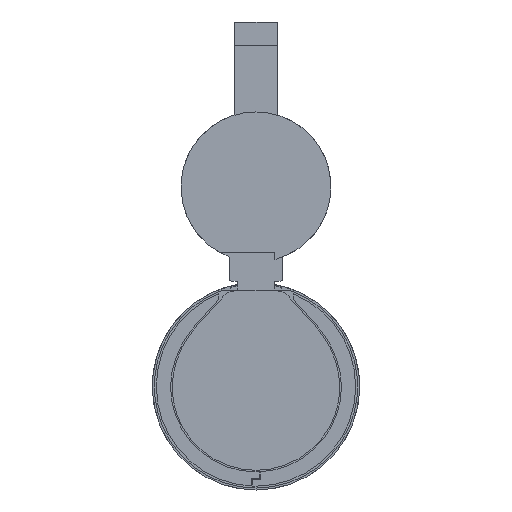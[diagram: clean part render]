
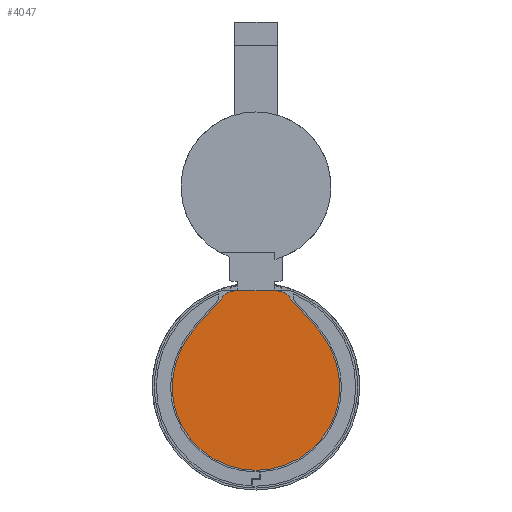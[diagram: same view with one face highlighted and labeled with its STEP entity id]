
A CAD part, front view. The second image highlights one B-rep face of the part: STEP entity #4047.
In plain terms, the highlighted planar face has unit normal (0, -1, 0).
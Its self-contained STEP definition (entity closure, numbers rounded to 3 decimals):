
#39 = CARTESIAN_POINT ( 'NONE',  ( -15.091, 0., 15.491 ) ) ;
#110 = AXIS2_PLACEMENT_3D ( 'NONE', #4804, #1171, #5377 ) ;
#176 = AXIS2_PLACEMENT_3D ( 'NONE', #7042, #3511, #7630 ) ;
#438 = EDGE_CURVE ( 'NONE', #7442, #7611, #3367, .T. ) ;
#485 = EDGE_CURVE ( 'NONE', #6822, #6801, #1538, .T. ) ;
#532 = DIRECTION ( 'NONE',  ( 0., 1., 0. ) ) ;
#585 = DIRECTION ( 'NONE',  ( 0., 0., 1. ) ) ;
#634 = VERTEX_POINT ( 'NONE', #3050 ) ;
#747 = ORIENTED_EDGE ( 'NONE', *, *, #3046, .F. ) ;
#801 = ORIENTED_EDGE ( 'NONE', *, *, #2486, .F. ) ;
#865 = VERTEX_POINT ( 'NONE', #7113 ) ;
#905 = ORIENTED_EDGE ( 'NONE', *, *, #2818, .F. ) ;
#1166 = CARTESIAN_POINT ( 'NONE',  ( -5.394, 0., 24.4 ) ) ;
#1171 = DIRECTION ( 'NONE',  ( 0., 1., 0. ) ) ;
#1174 = PLANE ( 'NONE',  #4568 ) ;
#1276 = VECTOR ( 'NONE', #6666, 1000. ) ;
#1375 = FACE_OUTER_BOUND ( 'NONE', #6637, .T. ) ;
#1468 = LINE ( 'NONE', #6475, #4148 ) ;
#1504 = CIRCLE ( 'NONE', #1680, 21.47 ) ;
#1538 = CIRCLE ( 'NONE', #5756, 21.47 ) ;
#1557 = ORIENTED_EDGE ( 'NONE', *, *, #2312, .F. ) ;
#1680 = AXIS2_PLACEMENT_3D ( 'NONE', #3580, #7699, #4202 ) ;
#1685 = DIRECTION ( 'NONE',  ( -0.019, 0., 1. ) ) ;
#1728 = VERTEX_POINT ( 'NONE', #4897 ) ;
#1772 = AXIS2_PLACEMENT_3D ( 'NONE', #6721, #3184, #7311 ) ;
#1923 = CARTESIAN_POINT ( 'NONE',  ( 5.394, 0., 20.6 ) ) ;
#2258 = EDGE_CURVE ( 'NONE', #7377, #6801, #4649, .T. ) ;
#2312 = EDGE_CURVE ( 'NONE', #7377, #7611, #6838, .T. ) ;
#2481 = LINE ( 'NONE', #1166, #4106 ) ;
#2486 = EDGE_CURVE ( 'NONE', #1728, #6822, #1504, .T. ) ;
#2523 = DIRECTION ( 'NONE',  ( 0., 0., 1. ) ) ;
#2585 = CARTESIAN_POINT ( 'NONE',  ( 21.47, 0., 0.008 ) ) ;
#2818 = EDGE_CURVE ( 'NONE', #634, #865, #2481, .T. ) ;
#2856 = VECTOR ( 'NONE', #6078, 1000. ) ;
#3046 = EDGE_CURVE ( 'NONE', #3150, #7343, #7136, .T. ) ;
#3050 = CARTESIAN_POINT ( 'NONE',  ( -5.394, 0., 24.4 ) ) ;
#3150 = VERTEX_POINT ( 'NONE', #7122 ) ;
#3159 = EDGE_CURVE ( 'NONE', #7442, #634, #3830, .T. ) ;
#3184 = DIRECTION ( 'NONE',  ( 0., 1., 0. ) ) ;
#3196 = VECTOR ( 'NONE', #5885, 1000. ) ;
#3256 = EDGE_CURVE ( 'NONE', #865, #3711, #7480, .T. ) ;
#3367 = LINE ( 'NONE', #5307, #3196 ) ;
#3511 = DIRECTION ( 'NONE',  ( 0., 1., 0. ) ) ;
#3564 = EDGE_CURVE ( 'NONE', #1728, #7343, #1468, .T. ) ;
#3580 = CARTESIAN_POINT ( 'NONE',  ( 0., 0., 0. ) ) ;
#3711 = VERTEX_POINT ( 'NONE', #4235 ) ;
#3830 = CIRCLE ( 'NONE', #110, 3.8 ) ;
#3836 = AXIS2_PLACEMENT_3D ( 'NONE', #1923, #6090, #2523 ) ;
#4047 = ADVANCED_FACE ( 'NONE', ( #1375 ), #1174, .F. ) ;
#4106 = VECTOR ( 'NONE', #4798, 1000. ) ;
#4148 = VECTOR ( 'NONE', #1685, 1000. ) ;
#4169 = EDGE_CURVE ( 'NONE', #3711, #3150, #6055, .T. ) ;
#4197 = CARTESIAN_POINT ( 'NONE',  ( 0., 0., 0. ) ) ;
#4202 = DIRECTION ( 'NONE',  ( 0., 0., 1. ) ) ;
#4235 = CARTESIAN_POINT ( 'NONE',  ( 8.221, 0., 23.139 ) ) ;
#4248 = DIRECTION ( 'NONE',  ( 0., 1., 0. ) ) ;
#4271 = CARTESIAN_POINT ( 'NONE',  ( -21.47, 0., 0. ) ) ;
#4331 = CARTESIAN_POINT ( 'NONE',  ( -21.47, 0., 0.008 ) ) ;
#4451 = ORIENTED_EDGE ( 'NONE', *, *, #438, .T. ) ;
#4568 = AXIS2_PLACEMENT_3D ( 'NONE', #7750, #4248, #585 ) ;
#4649 = LINE ( 'NONE', #4331, #2856 ) ;
#4784 = DIRECTION ( 'NONE',  ( 0., 0., 1. ) ) ;
#4798 = DIRECTION ( 'NONE',  ( 1., 0., 0. ) ) ;
#4804 = CARTESIAN_POINT ( 'NONE',  ( -5.394, 0., 20.6 ) ) ;
#4897 = CARTESIAN_POINT ( 'NONE',  ( 21.47, 0., 0. ) ) ;
#5069 = CARTESIAN_POINT ( 'NONE',  ( -21.47, 0., 0.008 ) ) ;
#5158 = ORIENTED_EDGE ( 'NONE', *, *, #3256, .F. ) ;
#5307 = CARTESIAN_POINT ( 'NONE',  ( -8.221, 0., 23.139 ) ) ;
#5377 = DIRECTION ( 'NONE',  ( 0., 0., 1. ) ) ;
#5477 = CARTESIAN_POINT ( 'NONE',  ( 8.221, 0., 23.139 ) ) ;
#5740 = ORIENTED_EDGE ( 'NONE', *, *, #4169, .F. ) ;
#5756 = AXIS2_PLACEMENT_3D ( 'NONE', #4197, #532, #4784 ) ;
#5809 = ORIENTED_EDGE ( 'NONE', *, *, #2258, .T. ) ;
#5885 = DIRECTION ( 'NONE',  ( -0.668, 0., -0.744 ) ) ;
#6039 = CARTESIAN_POINT ( 'NONE',  ( 0., 0., -21.47 ) ) ;
#6055 = LINE ( 'NONE', #5477, #1276 ) ;
#6078 = DIRECTION ( 'NONE',  ( -0.019, 0., -1. ) ) ;
#6090 = DIRECTION ( 'NONE',  ( 0., 1., 0. ) ) ;
#6306 = CARTESIAN_POINT ( 'NONE',  ( -8.221, 0., 23.139 ) ) ;
#6475 = CARTESIAN_POINT ( 'NONE',  ( 21.47, 0., 0. ) ) ;
#6562 = ORIENTED_EDGE ( 'NONE', *, *, #485, .F. ) ;
#6637 = EDGE_LOOP ( 'NONE', ( #801, #7349, #747, #5740, #5158, #905, #6825, #4451, #1557, #5809, #6562 ) ) ;
#6666 = DIRECTION ( 'NONE',  ( 0.668, 0., -0.744 ) ) ;
#6721 = CARTESIAN_POINT ( 'NONE',  ( 2.713, 0., -0.9 ) ) ;
#6801 = VERTEX_POINT ( 'NONE', #4271 ) ;
#6822 = VERTEX_POINT ( 'NONE', #6039 ) ;
#6825 = ORIENTED_EDGE ( 'NONE', *, *, #3159, .F. ) ;
#6838 = CIRCLE ( 'NONE', #1772, 24.2 ) ;
#7042 = CARTESIAN_POINT ( 'NONE',  ( -2.713, 0., -0.9 ) ) ;
#7113 = CARTESIAN_POINT ( 'NONE',  ( 5.394, 0., 24.4 ) ) ;
#7122 = CARTESIAN_POINT ( 'NONE',  ( 15.091, 0., 15.491 ) ) ;
#7136 = CIRCLE ( 'NONE', #176, 24.2 ) ;
#7311 = DIRECTION ( 'NONE',  ( 0., 0., 1. ) ) ;
#7343 = VERTEX_POINT ( 'NONE', #2585 ) ;
#7349 = ORIENTED_EDGE ( 'NONE', *, *, #3564, .T. ) ;
#7377 = VERTEX_POINT ( 'NONE', #5069 ) ;
#7442 = VERTEX_POINT ( 'NONE', #6306 ) ;
#7480 = CIRCLE ( 'NONE', #3836, 3.8 ) ;
#7611 = VERTEX_POINT ( 'NONE', #39 ) ;
#7630 = DIRECTION ( 'NONE',  ( 0., 0., 1. ) ) ;
#7699 = DIRECTION ( 'NONE',  ( 0., 1., 0. ) ) ;
#7750 = CARTESIAN_POINT ( 'NONE',  ( 0., 0., 0. ) ) ;
